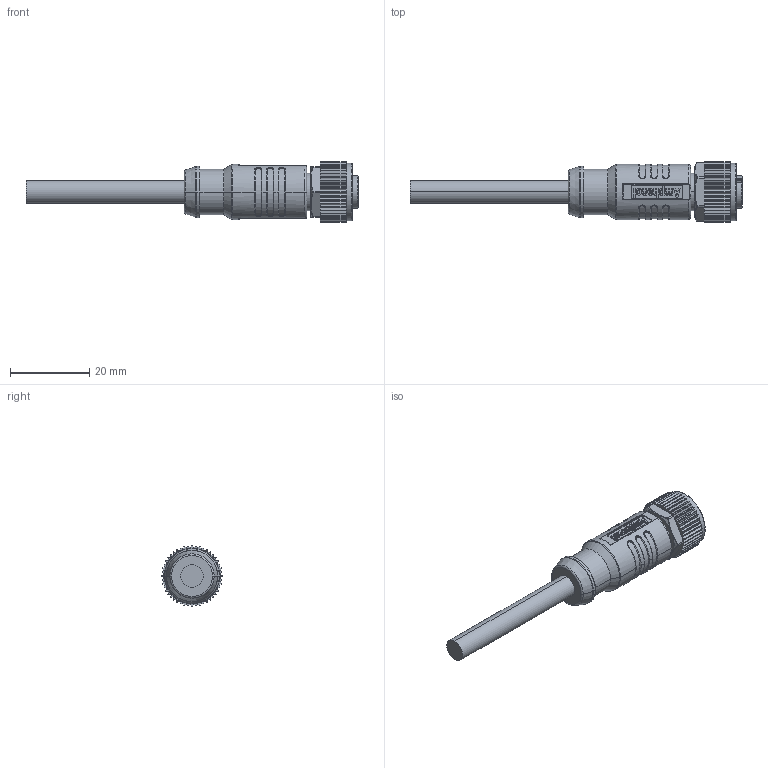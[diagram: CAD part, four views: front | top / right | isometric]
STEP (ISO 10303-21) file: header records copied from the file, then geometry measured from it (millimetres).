
FILE_DESCRIPTION((''),'2;1');
FILE_NAME('MSAS-05BFFM-SL8BXX','2021-03-18T',('L170024'),(''),'PRO/ENGINEER BY PARAMETRIC TECHNOLOGY CORPORATION, 2017170','PRO/ENGINEER BY PARAMETRIC TECHNOLOGY CORPORATION, 2017170','');
FILE_SCHEMA(('CONFIG_CONTROL_DESIGN'));
Products named in the file (1): MSAS-05BFFM-SL8BXX
Bounding box: 84 x 15.3 x 15.3 mm (x, y, z)
Volume: 6713.7 mm3; surface area: 4396 mm2
Topology: 1 solids, 1 shells, 1083 faces, 2819 edges, 1793 vertices
Faces by surface type: plane 490, cylinder 240, extrusion 144, bspline 101, torus 62, cone 32, sphere 14
Entity records: 55658 total; most frequent: CARTESIAN_POINT 22096, ORIENTED_EDGE 5638, DIRECTION 4741, EDGE_CURVE 2819, VERTEX_POINT 1793, VECTOR 1637, AXIS2_PLACEMENT_3D 1552, LINE 1493
